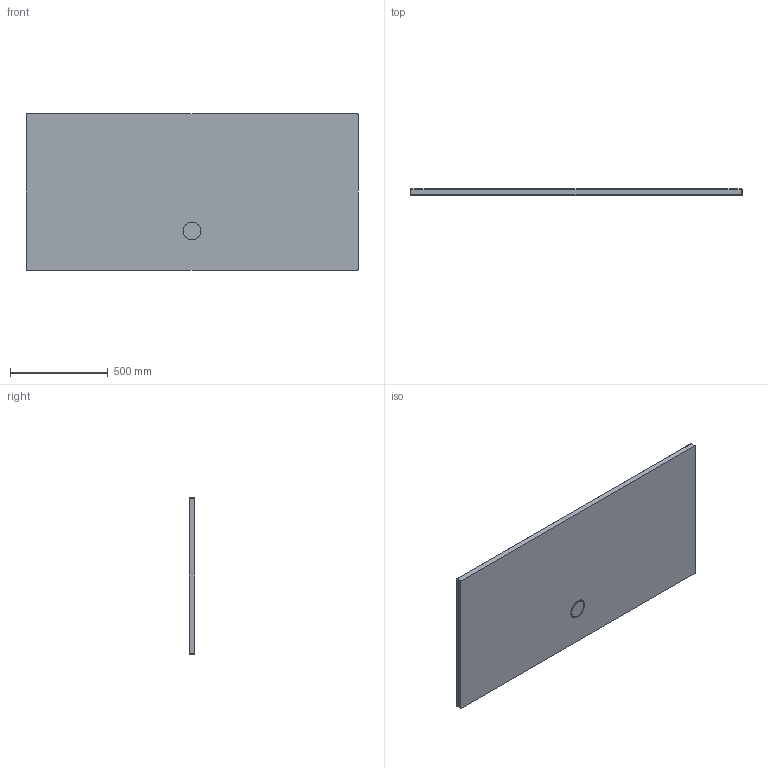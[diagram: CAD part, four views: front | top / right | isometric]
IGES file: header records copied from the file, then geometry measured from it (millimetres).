
Start section: SolidWorks IGES file using analytic representation for surfaces
Global section: file name: Y:\TKT\_PLIKI DLA ARCHITEKTÓW\02_AKRYL\BRODZIKI\seria SPACE MINERAL\IGS\B_M_80x170x1,5.IGS; native system: SolidWorks 2011; preprocessor: SolidWorks 2011; author: M.Szymanski; date: 180215.155653; units: millimetre
Bounding box: 1700 x 30 x 800 mm (x, y, z)
Surface area: 2882561.8 mm2 (no closed solid volume)
Topology: 0 solids, 0 shells, 61 faces, 739 edges, 736 vertices
Faces by surface type: bspline 39, revolution 22
